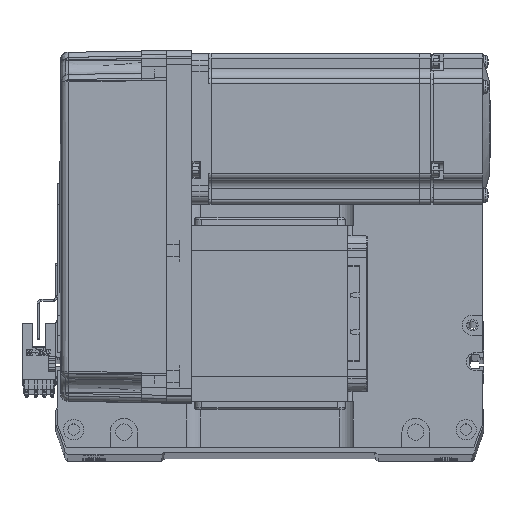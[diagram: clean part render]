
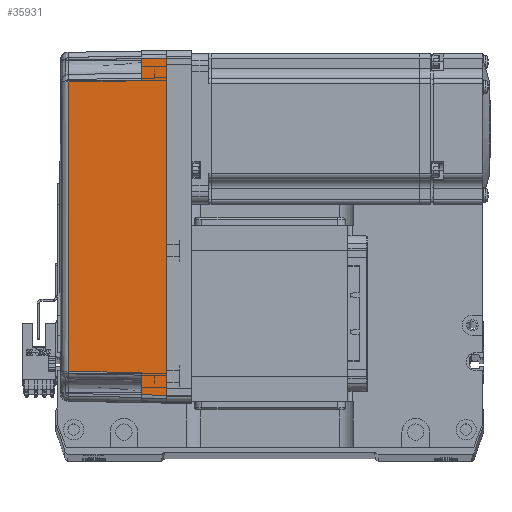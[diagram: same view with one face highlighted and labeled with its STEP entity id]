
A CAD part, top view. The second image highlights one B-rep face of the part: STEP entity #35931.
In plain terms, the highlighted planar face has unit normal (-0.018, 0, 1) as drawn and (0, 1, 0.017) by its records, which use the part's own axes.
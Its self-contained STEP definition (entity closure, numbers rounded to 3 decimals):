
#1690 = DIRECTION ( 'NONE',  ( 0., -0.017, 1. ) ) ;
#2381 = ORIENTED_EDGE ( 'NONE', *, *, #40690, .T. ) ;
#2841 = LINE ( 'NONE', #35550, #4431 ) ;
#3315 = EDGE_CURVE ( 'NONE', #29461, #46563, #19525, .T. ) ;
#3535 = LINE ( 'NONE', #4313, #52435 ) ;
#4313 = CARTESIAN_POINT ( 'NONE',  ( 67.001, 36.001, -0.052 ) ) ;
#4431 = VECTOR ( 'NONE', #30908, 1000. ) ;
#4880 = DIRECTION ( 'NONE',  ( 0.017, -0.017, 1. ) ) ;
#5242 = LINE ( 'NONE', #48242, #31288 ) ;
#5601 = EDGE_LOOP ( 'NONE', ( #11508, #51505, #31686, #2381, #58566, #24794, #42230, #6346 ) ) ;
#6346 = ORIENTED_EDGE ( 'NONE', *, *, #25803, .F. ) ;
#6880 = CARTESIAN_POINT ( 'NONE',  ( 57.495, 35.32, 38.985 ) ) ;
#7691 = CARTESIAN_POINT ( 'NONE',  ( -66.826, 35.825, 10. ) ) ;
#7760 = EDGE_CURVE ( 'NONE', #42573, #43252, #19824, .T. ) ;
#8056 = DIRECTION ( 'NONE',  ( 1., 0., 0. ) ) ;
#9493 = LINE ( 'NONE', #6880, #48932 ) ;
#9985 = CARTESIAN_POINT ( 'NONE',  ( -67., 36., 0. ) ) ;
#10115 = EDGE_CURVE ( 'NONE', #43252, #29461, #2841, .T. ) ;
#10584 = EDGE_CURVE ( 'NONE', #55625, #22617, #3535, .T. ) ;
#11492 = LINE ( 'NONE', #58590, #50187 ) ;
#11508 = ORIENTED_EDGE ( 'NONE', *, *, #7760, .T. ) ;
#11911 = DIRECTION ( 'NONE',  ( 0.017, 0.017, -1. ) ) ;
#15872 = VECTOR ( 'NONE', #4880, 1000. ) ;
#16171 = CARTESIAN_POINT ( 'NONE',  ( 67., 36., 0. ) ) ;
#16701 = CARTESIAN_POINT ( 'NONE',  ( 70., 36., 0. ) ) ;
#18494 = DIRECTION ( 'NONE',  ( 1., 0., 0. ) ) ;
#19083 = CARTESIAN_POINT ( 'NONE',  ( 58., 35.825, 10. ) ) ;
#19525 = LINE ( 'NONE', #57174, #56545 ) ;
#19824 = LINE ( 'NONE', #9985, #15872 ) ;
#21251 = CARTESIAN_POINT ( 'NONE',  ( -58., 35.825, 10. ) ) ;
#22617 = VERTEX_POINT ( 'NONE', #58905 ) ;
#24794 = ORIENTED_EDGE ( 'NONE', *, *, #61285, .T. ) ;
#25003 = CARTESIAN_POINT ( 'NONE',  ( 19.165, 35.316, 39.181 ) ) ;
#25803 = EDGE_CURVE ( 'NONE', #42573, #55625, #5242, .T. ) ;
#25841 = VERTEX_POINT ( 'NONE', #47826 ) ;
#26983 = B_SPLINE_CURVE_WITH_KNOTS ( 'NONE', 3,
 ( #50312, #40583, #25003, #40168 ),
 .UNSPECIFIED., .F., .F.,
 ( 4, 4 ),
 ( 0., 1. ),
 .UNSPECIFIED. ) ;
#29461 = VERTEX_POINT ( 'NONE', #21251 ) ;
#30653 = CARTESIAN_POINT ( 'NONE',  ( -57.495, 35.32, 38.985 ) ) ;
#30908 = DIRECTION ( 'NONE',  ( 1., 0., 0. ) ) ;
#31288 = VECTOR ( 'NONE', #8056, 1000. ) ;
#31686 = ORIENTED_EDGE ( 'NONE', *, *, #3315, .T. ) ;
#34293 = DIRECTION ( 'NONE',  ( -0.017, -0.017, 1. ) ) ;
#35550 = CARTESIAN_POINT ( 'NONE',  ( 70., 35.825, 10. ) ) ;
#35931 = ADVANCED_FACE ( 'NONE', ( #53015 ), #46486, .T. ) ;
#37072 = AXIS2_PLACEMENT_3D ( 'NONE', #16701, #47166, #1690 ) ;
#40108 = CARTESIAN_POINT ( 'NONE',  ( -67., 36., 0. ) ) ;
#40168 = CARTESIAN_POINT ( 'NONE',  ( 57.495, 35.32, 38.985 ) ) ;
#40583 = CARTESIAN_POINT ( 'NONE',  ( -19.165, 35.316, 39.181 ) ) ;
#40690 = EDGE_CURVE ( 'NONE', #46563, #25841, #26983, .T. ) ;
#42230 = ORIENTED_EDGE ( 'NONE', *, *, #10584, .F. ) ;
#42573 = VERTEX_POINT ( 'NONE', #40108 ) ;
#43252 = VERTEX_POINT ( 'NONE', #7691 ) ;
#46486 = PLANE ( 'NONE',  #37072 ) ;
#46563 = VERTEX_POINT ( 'NONE', #30653 ) ;
#47166 = DIRECTION ( 'NONE',  ( 0., 1., 0.017 ) ) ;
#47826 = CARTESIAN_POINT ( 'NONE',  ( 57.495, 35.32, 38.985 ) ) ;
#48242 = CARTESIAN_POINT ( 'NONE',  ( 0., 36., 0. ) ) ;
#48932 = VECTOR ( 'NONE', #11911, 1000. ) ;
#50187 = VECTOR ( 'NONE', #18494, 1000. ) ;
#50312 = CARTESIAN_POINT ( 'NONE',  ( -57.495, 35.32, 38.985 ) ) ;
#51505 = ORIENTED_EDGE ( 'NONE', *, *, #10115, .T. ) ;
#52435 = VECTOR ( 'NONE', #34293, 1000. ) ;
#53015 = FACE_OUTER_BOUND ( 'NONE', #5601, .T. ) ;
#53272 = EDGE_CURVE ( 'NONE', #25841, #62001, #9493, .T. ) ;
#55625 = VERTEX_POINT ( 'NONE', #16171 ) ;
#56545 = VECTOR ( 'NONE', #62267, 1000. ) ;
#57174 = CARTESIAN_POINT ( 'NONE',  ( -58., 35.825, 10. ) ) ;
#58566 = ORIENTED_EDGE ( 'NONE', *, *, #53272, .T. ) ;
#58590 = CARTESIAN_POINT ( 'NONE',  ( 70., 35.825, 10. ) ) ;
#58905 = CARTESIAN_POINT ( 'NONE',  ( 66.826, 35.825, 10. ) ) ;
#61285 = EDGE_CURVE ( 'NONE', #62001, #22617, #11492, .T. ) ;
#62001 = VERTEX_POINT ( 'NONE', #19083 ) ;
#62267 = DIRECTION ( 'NONE',  ( 0.017, -0.017, 1. ) ) ;
